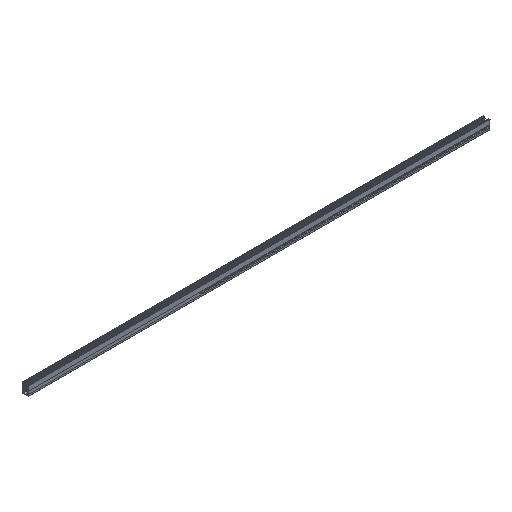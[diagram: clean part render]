
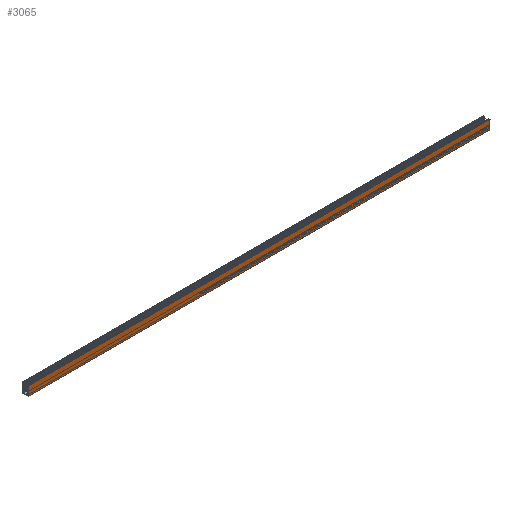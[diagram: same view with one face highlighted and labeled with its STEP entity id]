
A CAD part, isometric view. The second image highlights one B-rep face of the part: STEP entity #3065.
In plain terms, the highlighted planar face has unit normal (0, -1, 0).
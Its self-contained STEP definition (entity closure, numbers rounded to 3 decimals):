
#338=FACE_OUTER_BOUND('',#505,.T.);
#505=EDGE_LOOP('',(#2225,#2226,#2227,#2228));
#742=LINE('',#4326,#1039);
#743=LINE('',#4329,#1040);
#744=LINE('',#4331,#1041);
#745=LINE('',#4332,#1042);
#1039=VECTOR('',#3666,10.);
#1040=VECTOR('',#3669,10.);
#1041=VECTOR('',#3670,10.);
#1042=VECTOR('',#3671,10.);
#1316=VERTEX_POINT('',#4322);
#1317=VERTEX_POINT('',#4324);
#1318=VERTEX_POINT('',#4328);
#1319=VERTEX_POINT('',#4330);
#1684=EDGE_CURVE('',#1316,#1317,#742,.T.);
#1685=EDGE_CURVE('',#1316,#1318,#743,.T.);
#1686=EDGE_CURVE('',#1319,#1317,#744,.T.);
#1687=EDGE_CURVE('',#1318,#1319,#745,.T.);
#2225=ORIENTED_EDGE('',*,*,#1685,.F.);
#2226=ORIENTED_EDGE('',*,*,#1684,.T.);
#2227=ORIENTED_EDGE('',*,*,#1686,.F.);
#2228=ORIENTED_EDGE('',*,*,#1687,.F.);
#2972=PLANE('',#3278);
#3065=ADVANCED_FACE('',(#338),#2972,.T.);
#3278=AXIS2_PLACEMENT_3D('',#4327,#3667,#3668);
#3666=DIRECTION('',(1.,0.,0.));
#3667=DIRECTION('center_axis',(0.,-1.,0.));
#3668=DIRECTION('ref_axis',(0.,0.,-1.));
#3669=DIRECTION('',(0.,0.,1.));
#3670=DIRECTION('',(0.,0.,-1.));
#3671=DIRECTION('',(1.,0.,0.));
#4322=CARTESIAN_POINT('',(0.,-7.093,0.491));
#4324=CARTESIAN_POINT('',(1000.,-7.093,0.491));
#4326=CARTESIAN_POINT('',(0.,-7.093,0.491));
#4327=CARTESIAN_POINT('Origin',(0.,-7.093,19.898));
#4328=CARTESIAN_POINT('',(0.,-7.093,19.898));
#4329=CARTESIAN_POINT('',(0.,-7.093,0.491));
#4330=CARTESIAN_POINT('',(1000.,-7.093,19.898));
#4331=CARTESIAN_POINT('',(1000.,-7.093,0.491));
#4332=CARTESIAN_POINT('',(0.,-7.093,19.898));
